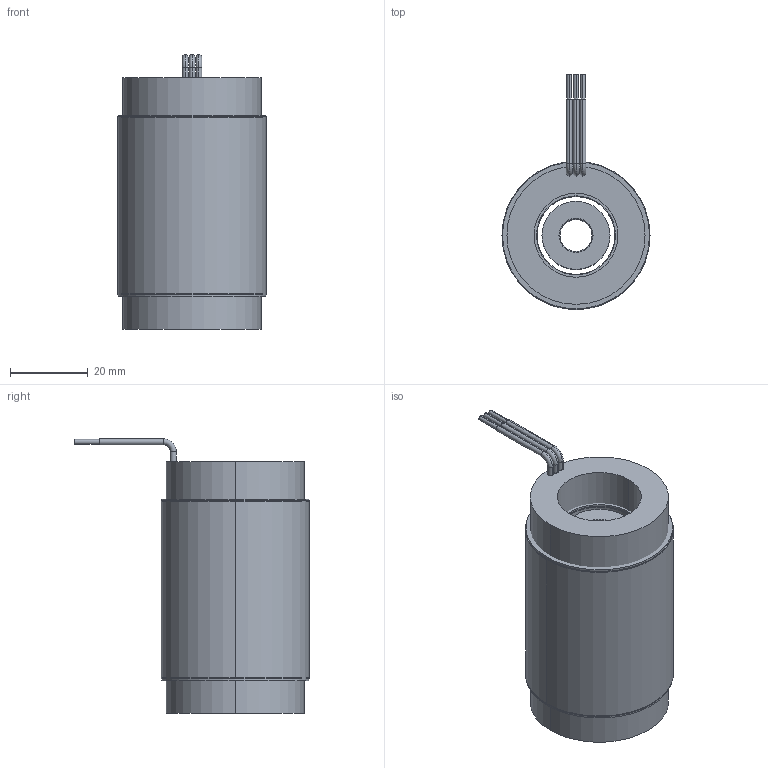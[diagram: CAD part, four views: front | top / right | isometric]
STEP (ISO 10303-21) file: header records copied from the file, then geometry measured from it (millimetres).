
FILE_DESCRIPTION (( 'STEP AP214' ), '1' );
FILE_NAME ('6100250-06.STEP', '2019-11-11T16:40:43', ( '' ), ( '' ), 'SwSTEP 2.0', 'SolidWorks 2016', '' );
FILE_SCHEMA (( 'AUTOMOTIVE_DESIGN' ));
Length unit declared in the file: millimetre
Products named in the file (10): COMP4500511-XX(COIL)_COMP4500511-06(COIL); 4450148-XX_4450148-03; 4500511-XX_4500511-06; 4600089-00; 4400021-00; 4150139-XX_4150139-03; 6100250-06; 4250335-XX_4250335-03
Assembly tree (10 placements, depth 4):
  6100250-06
    4500511-XX_4500511-06
      4450148-XX_4450148-03
        4450148-XX_4450148-03
        4400021-00
        4400021-00
        4600089-00  x2
      COMP4500511-XX(COIL)_COMP4500511-06(COIL)
    4250335-XX_4250335-03
      4150139-XX_4150139-03
Bounding box: 38.1 x 60.45 x 70.61 mm (x, y, z)
Volume: 87823.5 mm3; surface area: 34043.8 mm2
Topology: 7 solids, 7 shells, 76 faces, 152 edges, 96 vertices
Faces by surface type: cylinder 46, plane 20, torus 6, cone 4
Entity records: 2246 total; most frequent: DIRECTION 406, CARTESIAN_POINT 314, ORIENTED_EDGE 280, AXIS2_PLACEMENT_3D 180, EDGE_CURVE 140, CIRCLE 94, VERTEX_POINT 88, EDGE_LOOP 88
